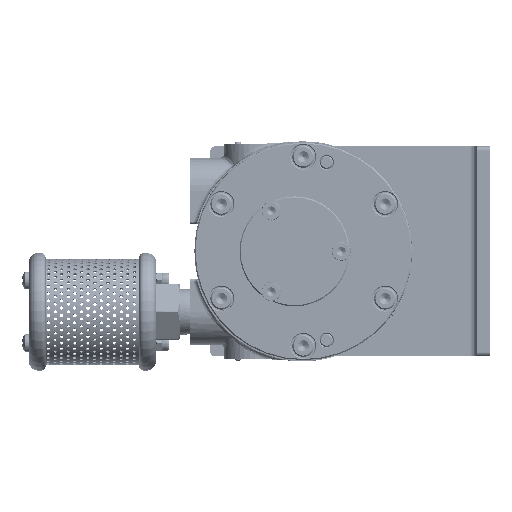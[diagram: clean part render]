
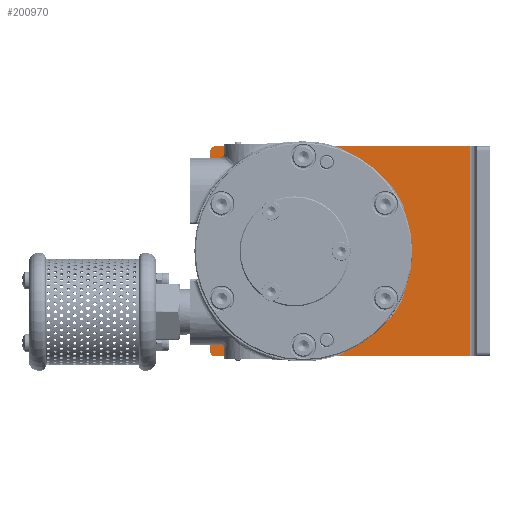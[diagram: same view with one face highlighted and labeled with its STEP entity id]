
A CAD part, left-side view. The second image highlights one B-rep face of the part: STEP entity #200970.
In plain terms, the highlighted planar face has unit normal (-1, 0, 0).
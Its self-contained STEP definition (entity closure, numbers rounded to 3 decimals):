
#288 = ORIENTED_EDGE ( 'NONE', *, *, #123839, .T. ) ;
#3448 = CIRCLE ( 'NONE', #43643, 3.55 ) ;
#3942 = EDGE_CURVE ( 'NONE', #167214, #104481, #46479, .T. ) ;
#5586 = PLANE ( 'NONE',  #156579 ) ;
#5989 = DIRECTION ( 'NONE',  ( 0., 0., -1. ) ) ;
#6979 = ORIENTED_EDGE ( 'NONE', *, *, #11547, .T. ) ;
#8062 = CARTESIAN_POINT ( 'NONE',  ( 38.3, 8.218, 30.668 ) ) ;
#9052 = DIRECTION ( 'NONE',  ( 1., 0., 0. ) ) ;
#9294 = ORIENTED_EDGE ( 'NONE', *, *, #165056, .T. ) ;
#9309 = LINE ( 'NONE', #32360, #77769 ) ;
#11547 = EDGE_CURVE ( 'NONE', #167214, #148055, #152807, .T. ) ;
#13315 = AXIS2_PLACEMENT_3D ( 'NONE', #108527, #141057, #77556 ) ;
#14440 = VERTEX_POINT ( 'NONE', #135470 ) ;
#16464 = AXIS2_PLACEMENT_3D ( 'NONE', #8062, #121137, #5989 ) ;
#17540 = EDGE_LOOP ( 'NONE', ( #193829, #188599 ) ) ;
#18056 = AXIS2_PLACEMENT_3D ( 'NONE', #117365, #68690, #166216 ) ;
#21858 = LINE ( 'NONE', #89999, #87621 ) ;
#22381 = ORIENTED_EDGE ( 'NONE', *, *, #52123, .T. ) ;
#23632 = CIRCLE ( 'NONE', #47074, 3.55 ) ;
#26944 = DIRECTION ( 'NONE',  ( 1., 0., 0. ) ) ;
#30146 = VERTEX_POINT ( 'NONE', #68034 ) ;
#32239 = FACE_BOUND ( 'NONE', #17540, .T. ) ;
#32360 = CARTESIAN_POINT ( 'NONE',  ( 38.3, -84.93, 47.75 ) ) ;
#40159 = DIRECTION ( 'NONE',  ( 0., 0., -1. ) ) ;
#40434 = DIRECTION ( 'NONE',  ( 0., 0., -1. ) ) ;
#40825 = ORIENTED_EDGE ( 'NONE', *, *, #91460, .T. ) ;
#41642 = VECTOR ( 'NONE', #170427, 1000. ) ;
#43643 = AXIS2_PLACEMENT_3D ( 'NONE', #83940, #52122, #197105 ) ;
#45502 = CIRCLE ( 'NONE', #13315, 3.55 ) ;
#46479 = LINE ( 'NONE', #90796, #66751 ) ;
#46668 = AXIS2_PLACEMENT_3D ( 'NONE', #89501, #168703, #169397 ) ;
#47074 = AXIS2_PLACEMENT_3D ( 'NONE', #134838, #185090, #40159 ) ;
#49445 = CARTESIAN_POINT ( 'NONE',  ( 38.3, -31.75, -3.55 ) ) ;
#52122 = DIRECTION ( 'NONE',  ( 1., 0., 0. ) ) ;
#52123 = EDGE_CURVE ( 'NONE', #119210, #85899, #23632, .T. ) ;
#52386 = VERTEX_POINT ( 'NONE', #128973 ) ;
#55754 = CARTESIAN_POINT ( 'NONE',  ( 38.3, 40.27, 47.75 ) ) ;
#57350 = CIRCLE ( 'NONE', #46668, 3.55 ) ;
#58543 = VERTEX_POINT ( 'NONE', #55754 ) ;
#62240 = ORIENTED_EDGE ( 'NONE', *, *, #109307, .F. ) ;
#62390 = VERTEX_POINT ( 'NONE', #77512 ) ;
#63997 = EDGE_LOOP ( 'NONE', ( #288, #9294, #165140, #6979, #62240, #203272 ) ) ;
#65224 = ORIENTED_EDGE ( 'NONE', *, *, #100756, .T. ) ;
#66751 = VECTOR ( 'NONE', #105538, 1000. ) ;
#68034 = CARTESIAN_POINT ( 'NONE',  ( 38.3, 8.218, -27.118 ) ) ;
#68690 = DIRECTION ( 'NONE',  ( 1., 0., 0. ) ) ;
#69771 = AXIS2_PLACEMENT_3D ( 'NONE', #72890, #89105, #105222 ) ;
#71582 = EDGE_CURVE ( 'NONE', #168642, #125291, #130944, .T. ) ;
#72890 = CARTESIAN_POINT ( 'NONE',  ( 38.3, 3.97, 0. ) ) ;
#77190 = EDGE_CURVE ( 'NONE', #125291, #168642, #45502, .T. ) ;
#77512 = CARTESIAN_POINT ( 'NONE',  ( 38.3, -75.93, 47.75 ) ) ;
#77556 = DIRECTION ( 'NONE',  ( 0., 0., -1. ) ) ;
#77769 = VECTOR ( 'NONE', #110765, 1000. ) ;
#79252 = EDGE_CURVE ( 'NONE', #85899, #119210, #80173, .T. ) ;
#80173 = CIRCLE ( 'NONE', #18056, 3.55 ) ;
#82776 = FACE_BOUND ( 'NONE', #83539, .T. ) ;
#83539 = EDGE_LOOP ( 'NONE', ( #135267, #40825 ) ) ;
#83940 = CARTESIAN_POINT ( 'NONE',  ( 38.3, 8.218, -30.668 ) ) ;
#85899 = VERTEX_POINT ( 'NONE', #49445 ) ;
#87621 = VECTOR ( 'NONE', #137993, 1000. ) ;
#89001 = CARTESIAN_POINT ( 'NONE',  ( 38.3, -84.93, -47.75 ) ) ;
#89105 = DIRECTION ( 'NONE',  ( 1., 0., 0. ) ) ;
#89501 = CARTESIAN_POINT ( 'NONE',  ( 38.3, 8.218, -30.668 ) ) ;
#89999 = CARTESIAN_POINT ( 'NONE',  ( 38.3, -75.93, -47.75 ) ) ;
#90348 = DIRECTION ( 'NONE',  ( -1., 0., 0. ) ) ;
#90796 = CARTESIAN_POINT ( 'NONE',  ( 38.3, 42.27, -47.75 ) ) ;
#91460 = EDGE_CURVE ( 'NONE', #30146, #52386, #3448, .T. ) ;
#100756 = EDGE_CURVE ( 'NONE', #14440, #135194, #127907, .T. ) ;
#101012 = CIRCLE ( 'NONE', #201162, 23.25 ) ;
#101353 = ORIENTED_EDGE ( 'NONE', *, *, #79252, .T. ) ;
#104481 = VERTEX_POINT ( 'NONE', #107231 ) ;
#105222 = DIRECTION ( 'NONE',  ( 0., 0., -1. ) ) ;
#105538 = DIRECTION ( 'NONE',  ( 0., 0., 1. ) ) ;
#105858 = EDGE_LOOP ( 'NONE', ( #101353, #22381 ) ) ;
#106230 = EDGE_CURVE ( 'NONE', #204912, #62390, #21858, .T. ) ;
#107231 = CARTESIAN_POINT ( 'NONE',  ( 38.3, 42.27, 45.75 ) ) ;
#107255 = LINE ( 'NONE', #200915, #41642 ) ;
#107347 = ORIENTED_EDGE ( 'NONE', *, *, #181432, .T. ) ;
#107995 = FACE_BOUND ( 'NONE', #105858, .T. ) ;
#108527 = CARTESIAN_POINT ( 'NONE',  ( 38.3, 8.218, 30.668 ) ) ;
#109307 = EDGE_CURVE ( 'NONE', #204912, #148055, #107255, .T. ) ;
#110765 = DIRECTION ( 'NONE',  ( 0., 1., 0. ) ) ;
#111437 = CARTESIAN_POINT ( 'NONE',  ( 38.3, 40.27, 45.75 ) ) ;
#113079 = FACE_OUTER_BOUND ( 'NONE', #63997, .T. ) ;
#117365 = CARTESIAN_POINT ( 'NONE',  ( 38.3, -31.75, 0. ) ) ;
#119210 = VERTEX_POINT ( 'NONE', #154767 ) ;
#121137 = DIRECTION ( 'NONE',  ( 1., 0., 0. ) ) ;
#123703 = CARTESIAN_POINT ( 'NONE',  ( 38.3, 3.97, 0. ) ) ;
#123839 = EDGE_CURVE ( 'NONE', #62390, #58543, #9309, .T. ) ;
#125291 = VERTEX_POINT ( 'NONE', #150001 ) ;
#127701 = DIRECTION ( 'NONE',  ( -1., 0., 0. ) ) ;
#127907 = CIRCLE ( 'NONE', #69771, 23.25 ) ;
#128973 = CARTESIAN_POINT ( 'NONE',  ( 38.3, 8.218, -34.218 ) ) ;
#130821 = CARTESIAN_POINT ( 'NONE',  ( 38.3, 42.27, -45.75 ) ) ;
#130944 = CIRCLE ( 'NONE', #16464, 3.55 ) ;
#133772 = AXIS2_PLACEMENT_3D ( 'NONE', #111437, #127701, #159575 ) ;
#134488 = EDGE_CURVE ( 'NONE', #52386, #30146, #57350, .T. ) ;
#134838 = CARTESIAN_POINT ( 'NONE',  ( 38.3, -31.75, 0. ) ) ;
#135194 = VERTEX_POINT ( 'NONE', #174694 ) ;
#135267 = ORIENTED_EDGE ( 'NONE', *, *, #134488, .T. ) ;
#135470 = CARTESIAN_POINT ( 'NONE',  ( 38.3, 3.97, 23.25 ) ) ;
#137993 = DIRECTION ( 'NONE',  ( 0., 0., 1. ) ) ;
#141057 = DIRECTION ( 'NONE',  ( 1., 0., 0. ) ) ;
#143716 = AXIS2_PLACEMENT_3D ( 'NONE', #202812, #90348, #203514 ) ;
#146684 = EDGE_LOOP ( 'NONE', ( #107347, #65224 ) ) ;
#148055 = VERTEX_POINT ( 'NONE', #154775 ) ;
#150001 = CARTESIAN_POINT ( 'NONE',  ( 38.3, 8.218, 27.118 ) ) ;
#152237 = CARTESIAN_POINT ( 'NONE',  ( 38.3, 8.218, 34.218 ) ) ;
#152807 = CIRCLE ( 'NONE', #143716, 2. ) ;
#154767 = CARTESIAN_POINT ( 'NONE',  ( 38.3, -31.75, 3.55 ) ) ;
#154775 = CARTESIAN_POINT ( 'NONE',  ( 38.3, 40.27, -47.75 ) ) ;
#155382 = DIRECTION ( 'NONE',  ( 0., 0., -1. ) ) ;
#156579 = AXIS2_PLACEMENT_3D ( 'NONE', #89001, #9052, #155382 ) ;
#159575 = DIRECTION ( 'NONE',  ( 0., 0., -1. ) ) ;
#165056 = EDGE_CURVE ( 'NONE', #58543, #104481, #174016, .T. ) ;
#165140 = ORIENTED_EDGE ( 'NONE', *, *, #3942, .F. ) ;
#166216 = DIRECTION ( 'NONE',  ( 0., 0., -1. ) ) ;
#167214 = VERTEX_POINT ( 'NONE', #130821 ) ;
#168642 = VERTEX_POINT ( 'NONE', #152237 ) ;
#168703 = DIRECTION ( 'NONE',  ( 1., 0., 0. ) ) ;
#169397 = DIRECTION ( 'NONE',  ( 0., 0., -1. ) ) ;
#170427 = DIRECTION ( 'NONE',  ( 0., 1., 0. ) ) ;
#174016 = CIRCLE ( 'NONE', #133772, 2. ) ;
#174694 = CARTESIAN_POINT ( 'NONE',  ( 38.3, 3.97, -23.25 ) ) ;
#181432 = EDGE_CURVE ( 'NONE', #135194, #14440, #101012, .T. ) ;
#185090 = DIRECTION ( 'NONE',  ( 1., 0., 0. ) ) ;
#186781 = CARTESIAN_POINT ( 'NONE',  ( 38.3, -75.93, -47.75 ) ) ;
#188599 = ORIENTED_EDGE ( 'NONE', *, *, #71582, .T. ) ;
#193829 = ORIENTED_EDGE ( 'NONE', *, *, #77190, .T. ) ;
#197105 = DIRECTION ( 'NONE',  ( 0., 0., -1. ) ) ;
#199276 = FACE_BOUND ( 'NONE', #146684, .T. ) ;
#200915 = CARTESIAN_POINT ( 'NONE',  ( 38.3, -84.93, -47.75 ) ) ;
#200970 = ADVANCED_FACE ( 'NONE', ( #32239, #199276, #107995, #82776, #113079 ), #5586, .F. ) ;
#201162 = AXIS2_PLACEMENT_3D ( 'NONE', #123703, #26944, #40434 ) ;
#202812 = CARTESIAN_POINT ( 'NONE',  ( 38.3, 40.27, -45.75 ) ) ;
#203272 = ORIENTED_EDGE ( 'NONE', *, *, #106230, .T. ) ;
#203514 = DIRECTION ( 'NONE',  ( 0., 0., -1. ) ) ;
#204912 = VERTEX_POINT ( 'NONE', #186781 ) ;
